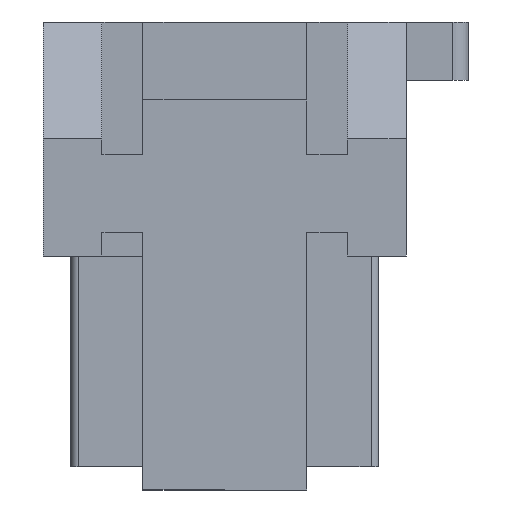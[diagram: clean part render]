
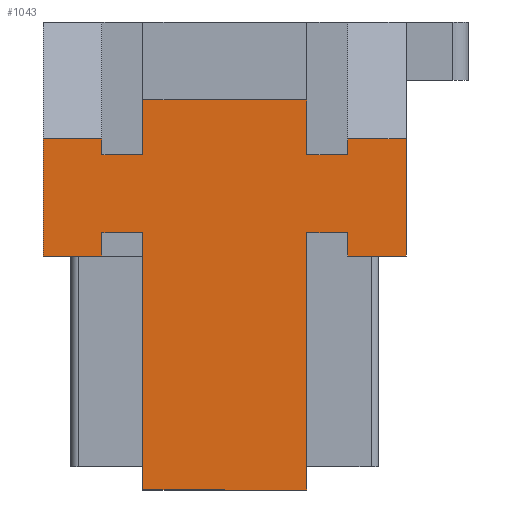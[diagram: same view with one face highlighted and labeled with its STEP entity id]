
A CAD part, left-side view. The second image highlights one B-rep face of the part: STEP entity #1043.
In plain terms, the highlighted planar face has unit normal (-1, 0, 0).
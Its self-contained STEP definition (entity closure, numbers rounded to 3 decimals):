
#70=CARTESIAN_POINT('Vertex',(-16.85,1.05,5.)) ;
#73=CARTESIAN_POINT('Line Origine',(-16.85,0.,5.)) ;
#77=CARTESIAN_POINT('Vertex',(-16.85,-1.05,5.)) ;
#885=CARTESIAN_POINT('Axis2P3D Location',(-16.85,0.,0.)) ;
#890=CARTESIAN_POINT('Line Origine',(-16.85,1.05,4.65)) ;
#894=CARTESIAN_POINT('Vertex',(-16.85,1.05,4.3)) ;
#897=CARTESIAN_POINT('Line Origine',(-16.85,1.313,4.3)) ;
#901=CARTESIAN_POINT('Vertex',(-16.85,1.575,4.3)) ;
#904=CARTESIAN_POINT('Line Origine',(-16.85,1.575,4.4)) ;
#908=CARTESIAN_POINT('Vertex',(-16.85,1.575,4.5)) ;
#911=CARTESIAN_POINT('Line Origine',(-16.85,1.95,4.5)) ;
#915=CARTESIAN_POINT('Vertex',(-16.85,2.325,4.5)) ;
#918=CARTESIAN_POINT('Line Origine',(-16.85,2.325,3.75)) ;
#922=CARTESIAN_POINT('Vertex',(-16.85,2.325,3.)) ;
#925=CARTESIAN_POINT('Line Origine',(-16.85,1.95,3.)) ;
#929=CARTESIAN_POINT('Vertex',(-16.85,1.575,3.)) ;
#932=CARTESIAN_POINT('Line Origine',(-16.85,1.575,3.15)) ;
#936=CARTESIAN_POINT('Vertex',(-16.85,1.575,3.3)) ;
#939=CARTESIAN_POINT('Line Origine',(-16.85,1.313,3.3)) ;
#943=CARTESIAN_POINT('Vertex',(-16.85,1.05,3.3)) ;
#946=CARTESIAN_POINT('Line Origine',(-16.85,1.05,1.65)) ;
#950=CARTESIAN_POINT('Vertex',(-16.85,1.05,0.)) ;
#953=CARTESIAN_POINT('Line Origine',(-16.85,0.,0.)) ;
#957=CARTESIAN_POINT('Vertex',(-16.85,-1.05,0.)) ;
#960=CARTESIAN_POINT('Line Origine',(-16.85,-1.05,1.65)) ;
#964=CARTESIAN_POINT('Vertex',(-16.85,-1.05,3.3)) ;
#967=CARTESIAN_POINT('Line Origine',(-16.85,-1.313,3.3)) ;
#971=CARTESIAN_POINT('Vertex',(-16.85,-1.575,3.3)) ;
#974=CARTESIAN_POINT('Line Origine',(-16.85,-1.575,3.15)) ;
#978=CARTESIAN_POINT('Vertex',(-16.85,-1.575,3.)) ;
#981=CARTESIAN_POINT('Line Origine',(-16.85,-1.95,3.)) ;
#985=CARTESIAN_POINT('Vertex',(-16.85,-2.325,3.)) ;
#988=CARTESIAN_POINT('Line Origine',(-16.85,-2.325,3.75)) ;
#992=CARTESIAN_POINT('Vertex',(-16.85,-2.325,4.5)) ;
#995=CARTESIAN_POINT('Line Origine',(-16.85,-1.95,4.5)) ;
#999=CARTESIAN_POINT('Vertex',(-16.85,-1.575,4.5)) ;
#1002=CARTESIAN_POINT('Line Origine',(-16.85,-1.575,4.4)) ;
#1006=CARTESIAN_POINT('Vertex',(-16.85,-1.575,4.3)) ;
#1009=CARTESIAN_POINT('Line Origine',(-16.85,-1.313,4.3)) ;
#1013=CARTESIAN_POINT('Vertex',(-16.85,-1.05,4.3)) ;
#1016=CARTESIAN_POINT('Line Origine',(-16.85,-1.05,4.65)) ;
#74=DIRECTION('Vector Direction',(0.,-1.,0.)) ;
#886=DIRECTION('Axis2P3D Direction',(1.,0.,0.)) ;
#887=DIRECTION('Axis2P3D XDirection',(0.,1.,0.)) ;
#891=DIRECTION('Vector Direction',(0.,0.,1.)) ;
#898=DIRECTION('Vector Direction',(0.,1.,0.)) ;
#905=DIRECTION('Vector Direction',(0.,0.,-1.)) ;
#912=DIRECTION('Vector Direction',(0.,-1.,0.)) ;
#919=DIRECTION('Vector Direction',(0.,0.,1.)) ;
#926=DIRECTION('Vector Direction',(0.,1.,0.)) ;
#933=DIRECTION('Vector Direction',(0.,0.,1.)) ;
#940=DIRECTION('Vector Direction',(0.,-1.,0.)) ;
#947=DIRECTION('Vector Direction',(0.,0.,-1.)) ;
#954=DIRECTION('Vector Direction',(0.,1.,0.)) ;
#961=DIRECTION('Vector Direction',(0.,0.,-1.)) ;
#968=DIRECTION('Vector Direction',(0.,1.,0.)) ;
#975=DIRECTION('Vector Direction',(0.,0.,1.)) ;
#982=DIRECTION('Vector Direction',(0.,1.,0.)) ;
#989=DIRECTION('Vector Direction',(0.,0.,-1.)) ;
#996=DIRECTION('Vector Direction',(0.,1.,0.)) ;
#1003=DIRECTION('Vector Direction',(0.,0.,-1.)) ;
#1010=DIRECTION('Vector Direction',(0.,-1.,0.)) ;
#1017=DIRECTION('Vector Direction',(0.,0.,1.)) ;
#888=AXIS2_PLACEMENT_3D('Plane Axis2P3D',#885,#886,#887) ;
#1022=ORIENTED_EDGE('',*,*,#79,.T.) ;
#1023=ORIENTED_EDGE('',*,*,#896,.T.) ;
#1024=ORIENTED_EDGE('',*,*,#903,.T.) ;
#1025=ORIENTED_EDGE('',*,*,#910,.T.) ;
#1026=ORIENTED_EDGE('',*,*,#917,.F.) ;
#1027=ORIENTED_EDGE('',*,*,#924,.F.) ;
#1028=ORIENTED_EDGE('',*,*,#931,.T.) ;
#1029=ORIENTED_EDGE('',*,*,#938,.T.) ;
#1030=ORIENTED_EDGE('',*,*,#945,.T.) ;
#1031=ORIENTED_EDGE('',*,*,#952,.T.) ;
#1032=ORIENTED_EDGE('',*,*,#959,.F.) ;
#1033=ORIENTED_EDGE('',*,*,#966,.T.) ;
#1034=ORIENTED_EDGE('',*,*,#973,.T.) ;
#1035=ORIENTED_EDGE('',*,*,#980,.T.) ;
#1036=ORIENTED_EDGE('',*,*,#987,.T.) ;
#1037=ORIENTED_EDGE('',*,*,#994,.F.) ;
#1038=ORIENTED_EDGE('',*,*,#1001,.T.) ;
#1039=ORIENTED_EDGE('',*,*,#1008,.T.) ;
#1040=ORIENTED_EDGE('',*,*,#1015,.T.) ;
#1041=ORIENTED_EDGE('',*,*,#1020,.T.) ;
#75=VECTOR('Line Direction',#74,1.) ;
#892=VECTOR('Line Direction',#891,1.) ;
#899=VECTOR('Line Direction',#898,1.) ;
#906=VECTOR('Line Direction',#905,1.) ;
#913=VECTOR('Line Direction',#912,1.) ;
#920=VECTOR('Line Direction',#919,1.) ;
#927=VECTOR('Line Direction',#926,1.) ;
#934=VECTOR('Line Direction',#933,1.) ;
#941=VECTOR('Line Direction',#940,1.) ;
#948=VECTOR('Line Direction',#947,1.) ;
#955=VECTOR('Line Direction',#954,1.) ;
#962=VECTOR('Line Direction',#961,1.) ;
#969=VECTOR('Line Direction',#968,1.) ;
#976=VECTOR('Line Direction',#975,1.) ;
#983=VECTOR('Line Direction',#982,1.) ;
#990=VECTOR('Line Direction',#989,1.) ;
#997=VECTOR('Line Direction',#996,1.) ;
#1004=VECTOR('Line Direction',#1003,1.) ;
#1011=VECTOR('Line Direction',#1010,1.) ;
#1018=VECTOR('Line Direction',#1017,1.) ;
#1043=ADVANCED_FACE('\X2\96F64EF651E04F554F53\X0\',(#1042),#889,.F.) ;
#79=EDGE_CURVE('',#78,#71,#76,.F.) ;
#896=EDGE_CURVE('',#71,#895,#893,.F.) ;
#903=EDGE_CURVE('',#895,#902,#900,.T.) ;
#910=EDGE_CURVE('',#902,#909,#907,.F.) ;
#917=EDGE_CURVE('',#916,#909,#914,.T.) ;
#924=EDGE_CURVE('',#923,#916,#921,.T.) ;
#931=EDGE_CURVE('',#923,#930,#928,.F.) ;
#938=EDGE_CURVE('',#930,#937,#935,.T.) ;
#945=EDGE_CURVE('',#937,#944,#942,.T.) ;
#952=EDGE_CURVE('',#944,#951,#949,.T.) ;
#959=EDGE_CURVE('',#958,#951,#956,.T.) ;
#966=EDGE_CURVE('',#958,#965,#963,.F.) ;
#973=EDGE_CURVE('',#965,#972,#970,.F.) ;
#980=EDGE_CURVE('',#972,#979,#977,.F.) ;
#987=EDGE_CURVE('',#979,#986,#984,.F.) ;
#994=EDGE_CURVE('',#993,#986,#991,.T.) ;
#1001=EDGE_CURVE('',#993,#1000,#998,.T.) ;
#1008=EDGE_CURVE('',#1000,#1007,#1005,.T.) ;
#1015=EDGE_CURVE('',#1007,#1014,#1012,.F.) ;
#1020=EDGE_CURVE('',#1014,#78,#1019,.T.) ;
#1021=EDGE_LOOP('',(#1022,#1023,#1024,#1025,#1026,#1027,#1028,#1029,#1030,#1031,#1032,#1033,#1034,#1035,#1036,#1037,#1038,#1039,#1040,#1041)) ;
#1042=FACE_OUTER_BOUND('',#1021,.T.) ;
#76=LINE('Line',#73,#75) ;
#893=LINE('Line',#890,#892) ;
#900=LINE('Line',#897,#899) ;
#907=LINE('Line',#904,#906) ;
#914=LINE('Line',#911,#913) ;
#921=LINE('Line',#918,#920) ;
#928=LINE('Line',#925,#927) ;
#935=LINE('Line',#932,#934) ;
#942=LINE('Line',#939,#941) ;
#949=LINE('Line',#946,#948) ;
#956=LINE('Line',#953,#955) ;
#963=LINE('Line',#960,#962) ;
#970=LINE('Line',#967,#969) ;
#977=LINE('Line',#974,#976) ;
#984=LINE('Line',#981,#983) ;
#991=LINE('Line',#988,#990) ;
#998=LINE('Line',#995,#997) ;
#1005=LINE('Line',#1002,#1004) ;
#1012=LINE('Line',#1009,#1011) ;
#1019=LINE('Line',#1016,#1018) ;
#889=PLANE('Plane',#888) ;
#71=VERTEX_POINT('',#70) ;
#78=VERTEX_POINT('',#77) ;
#895=VERTEX_POINT('',#894) ;
#902=VERTEX_POINT('',#901) ;
#909=VERTEX_POINT('',#908) ;
#916=VERTEX_POINT('',#915) ;
#923=VERTEX_POINT('',#922) ;
#930=VERTEX_POINT('',#929) ;
#937=VERTEX_POINT('',#936) ;
#944=VERTEX_POINT('',#943) ;
#951=VERTEX_POINT('',#950) ;
#958=VERTEX_POINT('',#957) ;
#965=VERTEX_POINT('',#964) ;
#972=VERTEX_POINT('',#971) ;
#979=VERTEX_POINT('',#978) ;
#986=VERTEX_POINT('',#985) ;
#993=VERTEX_POINT('',#992) ;
#1000=VERTEX_POINT('',#999) ;
#1007=VERTEX_POINT('',#1006) ;
#1014=VERTEX_POINT('',#1013) ;
